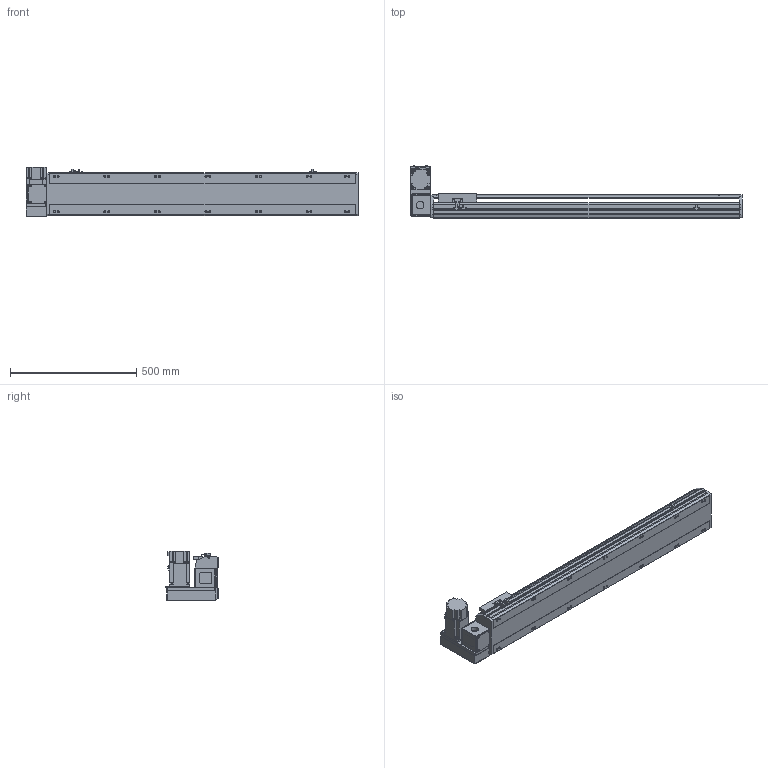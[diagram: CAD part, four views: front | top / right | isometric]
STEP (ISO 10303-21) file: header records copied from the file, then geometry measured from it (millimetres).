
FILE_DESCRIPTION( ( 'STEP AP214' ), '1' );
FILE_NAME( 'x:/temp/worker_4/temp/exporttempdir_2248_393_Hneb7/format_0/PBS170-P40-S950-LU-T75-C1-N(0).stp', '2022-06-07T08:15:06', ( 'License CC BY-ND 4.0' ), ( 'CADENAS' ), ' ', 'PARTsolutions', ' ' );
FILE_SCHEMA( ( 'AUTOMOTIVE_DESIGN { 1 0 10303 214 1 1 1 1 }' ) );
Length unit declared in the file: millimetre
Products named in the file (7): PBS170-P40-S950-LU-T75-C1-N(0); _PBS170-S950()_body; _PBS170T-LU_motors; _T75-p1; _PBS170_sliser; _PBS170_plant; _PBS170_sensor
Assembly tree (8 placements, depth 2):
  PBS170-P40-S950-LU-T75-C1-N(0)
    _PBS170-S950()_body
    _PBS170T-LU_motors
    _T75-p1
    _PBS170_sliser
    _PBS170_plant
    _PBS170_sensor  x3
Bounding box: 1313 x 206 x 197.3 mm (x, y, z)
Volume: 10634739.7 mm3; surface area: 1396961.2 mm2
Topology: 8 solids, 8 shells, 1066 faces, 2835 edges, 1848 vertices
Faces by surface type: plane 681, cylinder 331, cone 44, sphere 8, torus 2
Full cylindrical faces by diameter (mm): 3.242 x4, 4 x2, 4.4 x4, 4.5 x6, 4.917 x4, 6 x9, 6.647 x22, 7 x2, 7.5 x4, 8 x8, 8.5 x14, 10 x4, 10.5 x14, 11 x2, 30 x2, 40 x1, 70 x1
Entity records: 39098 total; most frequent: CARTESIAN_POINT 6053, DIRECTION 5230, ORIENTED_EDGE 4968, EDGE_CURVE 2484, AXIS2_PLACEMENT_3D 1807, VERTEX_POINT 1706, LINE 1616, VECTOR 1616
